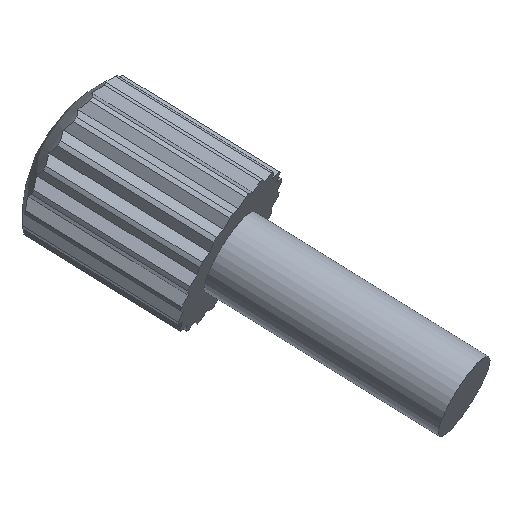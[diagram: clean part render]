
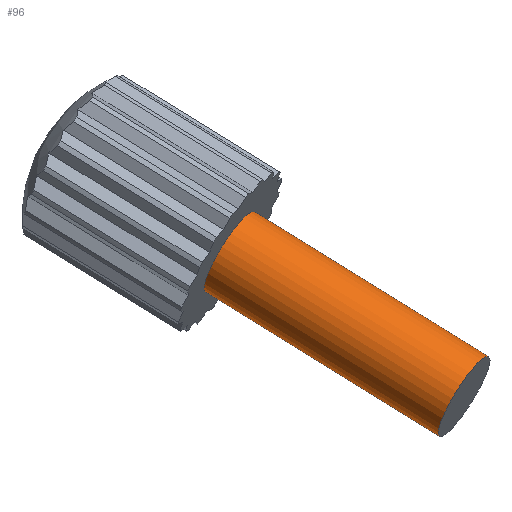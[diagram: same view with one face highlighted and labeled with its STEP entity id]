
A CAD part, front view. The second image highlights one B-rep face of the part: STEP entity #96.
In plain terms, the highlighted cylindrical face has radius 1.5 mm (diameter 3 mm), a partial arc.
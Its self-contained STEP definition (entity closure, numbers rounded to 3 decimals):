
#19 = VECTOR ( 'NONE', #1645, 1000. ) ;
#47 = VERTEX_POINT ( 'NONE', #2063 ) ;
#96 = ADVANCED_FACE ( 'NONE', ( #803 ), #2196, .T. ) ;
#130 = EDGE_LOOP ( 'NONE', ( #1765, #2194, #1324, #1502 ) ) ;
#168 = DIRECTION ( 'NONE',  ( -0.526, 0., -0.85 ) ) ;
#171 = EDGE_CURVE ( 'NONE', #435, #47, #2243, .T. ) ;
#172 = CARTESIAN_POINT ( 'NONE',  ( -34.761, 97.27, 91.36 ) ) ;
#196 = AXIS2_PLACEMENT_3D ( 'NONE', #2310, #2318, #1575 ) ;
#300 = LINE ( 'NONE', #382, #19 ) ;
#335 = DIRECTION ( 'NONE',  ( -0.833, 0.2, 0.516 ) ) ;
#382 = CARTESIAN_POINT ( 'NONE',  ( -28.84, 95.474, 84.168 ) ) ;
#389 = DIRECTION ( 'NONE',  ( 0.833, -0.2, -0.516 ) ) ;
#435 = VERTEX_POINT ( 'NONE', #2010 ) ;
#563 = VECTOR ( 'NONE', #389, 1000. ) ;
#803 = FACE_OUTER_BOUND ( 'NONE', #130, .T. ) ;
#879 = VERTEX_POINT ( 'NONE', #172 ) ;
#963 = AXIS2_PLACEMENT_3D ( 'NONE', #2080, #2095, #1360 ) ;
#1035 = CARTESIAN_POINT ( 'NONE',  ( -36.339, 97.27, 88.808 ) ) ;
#1230 = CARTESIAN_POINT ( 'NONE',  ( -28.05, 95.474, 85.444 ) ) ;
#1311 = VERTEX_POINT ( 'NONE', #1035 ) ;
#1324 = ORIENTED_EDGE ( 'NONE', *, *, #2025, .T. ) ;
#1332 = EDGE_CURVE ( 'NONE', #879, #1311, #1543, .T. ) ;
#1360 = DIRECTION ( 'NONE',  ( -0.526, 0., -0.85 ) ) ;
#1502 = ORIENTED_EDGE ( 'NONE', *, *, #171, .T. ) ;
#1543 = CIRCLE ( 'NONE', #196, 1.5 ) ;
#1575 = DIRECTION ( 'NONE',  ( -0.526, 0., -0.85 ) ) ;
#1645 = DIRECTION ( 'NONE',  ( 0.833, -0.2, -0.516 ) ) ;
#1765 = ORIENTED_EDGE ( 'NONE', *, *, #2067, .F. ) ;
#2010 = CARTESIAN_POINT ( 'NONE',  ( -28.84, 95.474, 84.168 ) ) ;
#2023 = CARTESIAN_POINT ( 'NONE',  ( -27.261, 95.474, 86.719 ) ) ;
#2025 = EDGE_CURVE ( 'NONE', #1311, #435, #300, .T. ) ;
#2063 = CARTESIAN_POINT ( 'NONE',  ( -27.261, 95.474, 86.719 ) ) ;
#2067 = EDGE_CURVE ( 'NONE', #879, #47, #2161, .T. ) ;
#2080 = CARTESIAN_POINT ( 'NONE',  ( -28.05, 95.474, 85.444 ) ) ;
#2095 = DIRECTION ( 'NONE',  ( 0.833, -0.2, -0.516 ) ) ;
#2149 = AXIS2_PLACEMENT_3D ( 'NONE', #1230, #335, #168 ) ;
#2161 = LINE ( 'NONE', #2023, #563 ) ;
#2194 = ORIENTED_EDGE ( 'NONE', *, *, #1332, .T. ) ;
#2196 = CYLINDRICAL_SURFACE ( 'NONE', #963, 1.5 ) ;
#2243 = CIRCLE ( 'NONE', #2149, 1.5 ) ;
#2310 = CARTESIAN_POINT ( 'NONE',  ( -35.55, 97.27, 90.084 ) ) ;
#2318 = DIRECTION ( 'NONE',  ( 0.833, -0.2, -0.516 ) ) ;
